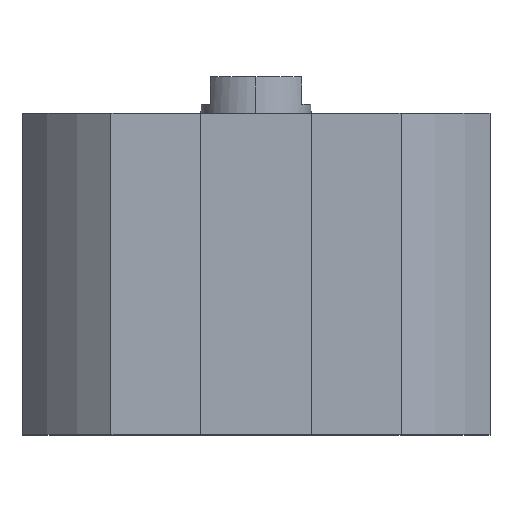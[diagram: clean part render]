
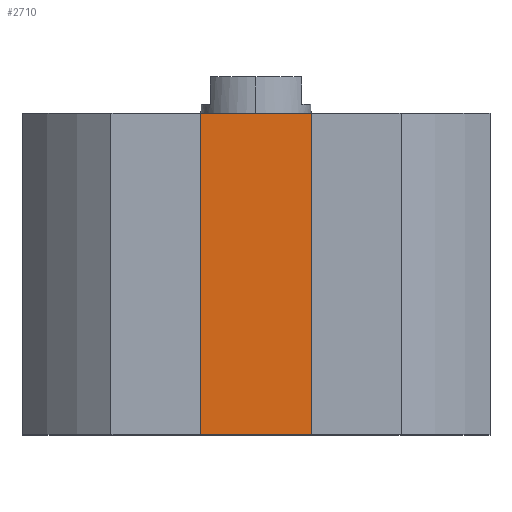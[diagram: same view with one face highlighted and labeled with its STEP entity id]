
A CAD part, top view. The second image highlights one B-rep face of the part: STEP entity #2710.
In plain terms, the highlighted planar face has unit normal (0, 0, 1).
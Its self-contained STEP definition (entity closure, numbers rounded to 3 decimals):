
#25 = DIRECTION ( 'NONE',  ( 1., 0., 0. ) ) ;
#34 = VERTEX_POINT ( 'NONE', #919 ) ;
#73 = VERTEX_POINT ( 'NONE', #1438 ) ;
#133 = LINE ( 'NONE', #1411, #2378 ) ;
#373 = LINE ( 'NONE', #1770, #971 ) ;
#543 = VERTEX_POINT ( 'NONE', #2464 ) ;
#544 = CARTESIAN_POINT ( 'NONE',  ( 7.7, -35., 17. ) ) ;
#711 = ORIENTED_EDGE ( 'NONE', *, *, #1137, .F. ) ;
#735 = DIRECTION ( 'NONE',  ( 1., 0., 0. ) ) ;
#829 = AXIS2_PLACEMENT_3D ( 'NONE', #986, #1985, #2209 ) ;
#862 = EDGE_CURVE ( 'NONE', #543, #73, #1807, .T. ) ;
#919 = CARTESIAN_POINT ( 'NONE',  ( -7.7, 0., 17. ) ) ;
#971 = VECTOR ( 'NONE', #2718, 1000. ) ;
#986 = CARTESIAN_POINT ( 'NONE',  ( 0., -35., 17. ) ) ;
#1087 = FACE_OUTER_BOUND ( 'NONE', #2150, .T. ) ;
#1137 = EDGE_CURVE ( 'NONE', #1703, #34, #373, .T. ) ;
#1201 = LINE ( 'NONE', #2117, #2314 ) ;
#1411 = CARTESIAN_POINT ( 'NONE',  ( 0., 0., 17. ) ) ;
#1438 = CARTESIAN_POINT ( 'NONE',  ( 7.7, 0., 17. ) ) ;
#1464 = EDGE_CURVE ( 'NONE', #34, #73, #133, .T. ) ;
#1651 = PLANE ( 'NONE',  #829 ) ;
#1703 = VERTEX_POINT ( 'NONE', #2759 ) ;
#1770 = CARTESIAN_POINT ( 'NONE',  ( -7.7, -35., 17. ) ) ;
#1783 = VECTOR ( 'NONE', #2847, 1000. ) ;
#1807 = LINE ( 'NONE', #544, #1783 ) ;
#1985 = DIRECTION ( 'NONE',  ( 0., 0., 1. ) ) ;
#2117 = CARTESIAN_POINT ( 'NONE',  ( 0., -35., 17. ) ) ;
#2150 = EDGE_LOOP ( 'NONE', ( #2523, #711, #2341, #2809 ) ) ;
#2209 = DIRECTION ( 'NONE',  ( 1., 0., 0. ) ) ;
#2314 = VECTOR ( 'NONE', #735, 1000. ) ;
#2341 = ORIENTED_EDGE ( 'NONE', *, *, #2371, .T. ) ;
#2371 = EDGE_CURVE ( 'NONE', #1703, #543, #1201, .T. ) ;
#2378 = VECTOR ( 'NONE', #25, 1000. ) ;
#2464 = CARTESIAN_POINT ( 'NONE',  ( 7.7, -35., 17. ) ) ;
#2523 = ORIENTED_EDGE ( 'NONE', *, *, #1464, .F. ) ;
#2710 = ADVANCED_FACE ( 'NONE', ( #1087 ), #1651, .T. ) ;
#2718 = DIRECTION ( 'NONE',  ( 0., 1., 0. ) ) ;
#2759 = CARTESIAN_POINT ( 'NONE',  ( -7.7, -35., 17. ) ) ;
#2809 = ORIENTED_EDGE ( 'NONE', *, *, #862, .T. ) ;
#2847 = DIRECTION ( 'NONE',  ( 0., 1., 0. ) ) ;
